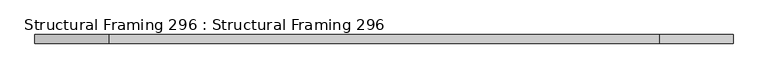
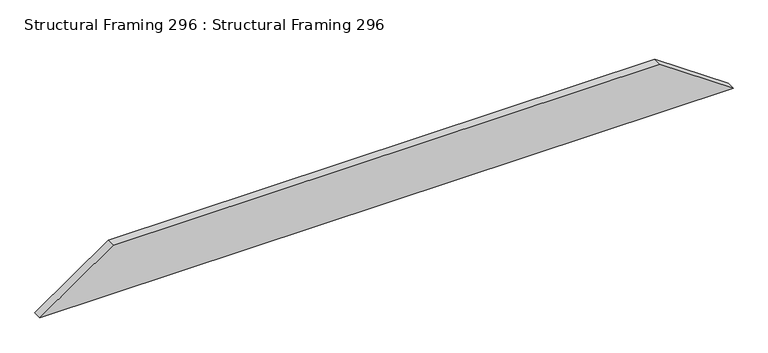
"""IFC4 building model written with IfcOpenShell, lengths in millimetres: beam geometry, Structural Framing 296 : Structural Framing 296."""

from ifc_helpers import new_model, si_unit, frame, origin, place, context, project, spatial, polyline, outline, extrude, source, transform, mapped, element, save


def structural_framing_296_structural_framing_296_04115515(model_context):
    return source(origin(), model_context, "Body", "SweptSolid", [
        extrude(outline(polyline([(2089.9566477, 2220.8259056), (2239.9566477, 2006.6037045), (2239.9566477, 406.95411), (2089.9566477, 192.731909), (2089.9566477, 2220.8259056)])), frame((0.0, 3760.5508021, 0.0), z_axis=(0.0, 1.0, 0.0), x_axis=(0.0, 0.0, 1.0)), (0.0, 0.0, 1.0), 25.0),
    ])


if __name__ == "__main__":
    model = new_model("IFC4")
    model_context = context("Model", 3, world=origin())
    ifc_project = project(units=[si_unit("LENGTHUNIT", "METRE", prefix="MILLI")], contexts=[model_context])
    site = spatial("IfcSite", under=ifc_project)
    building = spatial("IfcBuilding", under=site)
    placement = place(None, origin())
    structural_framing_296_structural_framing_296_shape = structural_framing_296_structural_framing_296_04115515(model_context)
    element("IfcBeam", 1, ObjectType="Structural Framing 296 : Structural Framing 296", at=placement, inside=building, context=model_context, shape_type="MappedRepresentation", body=[
        mapped(structural_framing_296_structural_framing_296_shape, transform((0.0, 0.0, 0.0), x_axis=(1.0, 0.0, 0.0), y_axis=(0.0, 1.0, 0.0), z_axis=(0.0, 0.0, 1.0))),
    ])
    save(model, "model.ifc")
